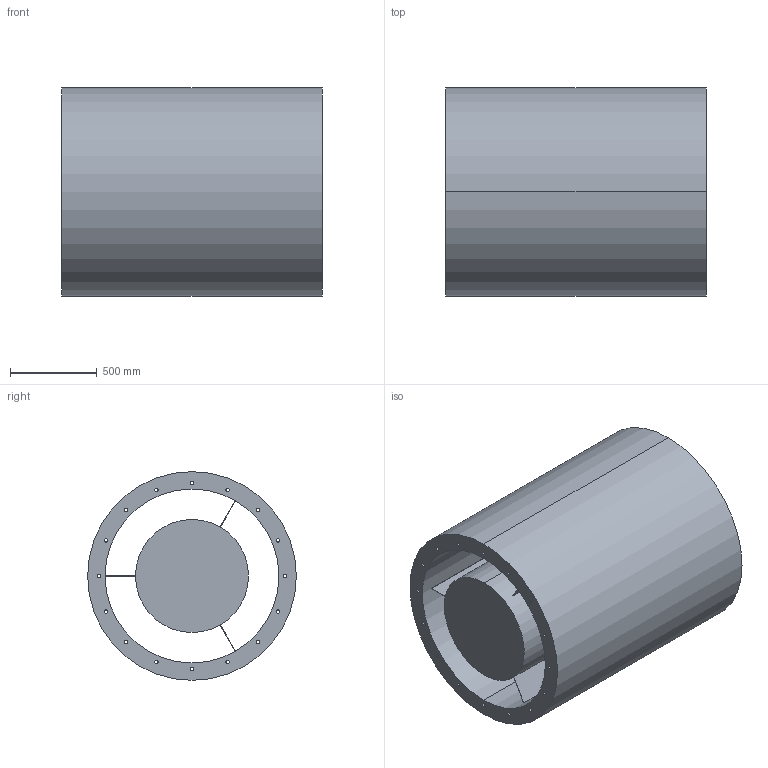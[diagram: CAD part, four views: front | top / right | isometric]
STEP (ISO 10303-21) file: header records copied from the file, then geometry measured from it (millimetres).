
FILE_DESCRIPTION(('STEP AP214'),'1');
FILE_NAME('accessory_5211830400.stp','2017-10-09T11:37:01',('TraceParts'),('TraceParts S.A.'),'Spatial InterOp 3D',' ',' ');
FILE_SCHEMA(('automotive_design'));
Length unit declared in the file: millimetre
Products named in the file (1): accessory_5211830400
Bounding box: 1500 x 1200 x 1200 mm (x, y, z)
Volume: 948740444.8 mm3; surface area: 16863695.3 mm2
Topology: 1 solids, 1 shells, 56 faces, 155 edges, 103 vertices
Faces by surface type: cylinder 38, plane 16, torus 2
Entity records: 2384 total; most frequent: DIRECTION 362, CARTESIAN_POINT 315, ORIENTED_EDGE 310, EDGE_CURVE 155, AXIS2_PLACEMENT_3D 150, VERTEX_POINT 103, EDGE_LOOP 96, CIRCLE 93
